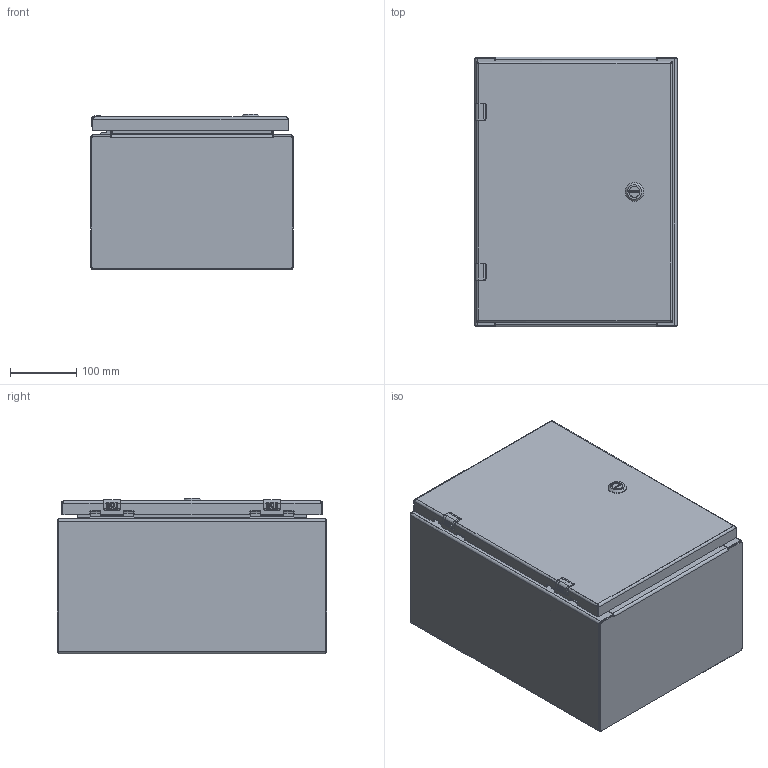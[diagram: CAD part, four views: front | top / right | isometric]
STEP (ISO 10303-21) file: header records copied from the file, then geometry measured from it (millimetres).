
FILE_DESCRIPTION((''),'2;1');
FILE_NAME('MODEL-306_ASM','2025-02-21T12:42:39',('johnh'),('SAGINAW CONTROL & ENGINEERING'),'CREO PARAMETRIC BY PTC INC, 2021284','CREO PARAMETRIC BY PTC INC, 2021284','');
FILE_SCHEMA(('AUTOMOTIVE_DESIGN { 1 0 10303 214 1 1 1 1 }'));
Length unit declared in the file: inch
Products named in the file (27): MODEL-306-BDY; MODEL-306-TP; MODEL-306-BTM; MODEL-306-DR; 100837; 100794_SHAFT; 100794_INSERT; 100794_CAM; 100794_NUT; 100794_SCREW; 100794_ASM; MODEL-306-DOOR-GASKET; 126392; 126392_ASM; 126395; 102483; 101226; 101389; 102140; 132757; MODEL-306-DOOR-ASSY_ASM; 101651; 122191; SUBPANEL; 100904; SUBPANEL-SUBASSEMBLY_ASM; MODEL-306_ASM
Assembly tree (44 placements, depth 4):
  MODEL-306_ASM
    MODEL-306-BDY
    MODEL-306-TP
    MODEL-306-BTM
    MODEL-306-DOOR-ASSY_ASM
      MODEL-306-DR
      100837
      100794_ASM
        100794_SHAFT
        100794_INSERT
        100794_CAM
        100794_NUT
        100794_SCREW
      MODEL-306-DOOR-GASKET
      126392_ASM  x2
        126392
      126395  x2
      102483  x6
      101226  x2
      101389  x2
      102140  x2
      132757  x2
    100837
    101651  x4
    122191
    SUBPANEL-SUBASSEMBLY_ASM
      SUBPANEL
      100904  x4
Bounding box: 304.8 x 406.4 x 234.33 mm (x, y, z)
Volume: 1578952.8 mm3; surface area: 1478247.2 mm2
Topology: 41 solids, 41 shells, 1947 faces, 4853 edges, 3036 vertices
Faces by surface type: plane 879, cylinder 607, torus 177, bspline 144, cone 96, sphere 44
Entity records: 61173 total; most frequent: CARTESIAN_POINT 12998, DIRECTION 6863, ORIENTED_EDGE 6558, PRESENTATION_STYLE_ASSIGNMENT 3475, EDGE_CURVE 3279, STYLED_ITEM 3200, CURVE_STYLE 3117, AXIS2_PLACEMENT_3D 2471
